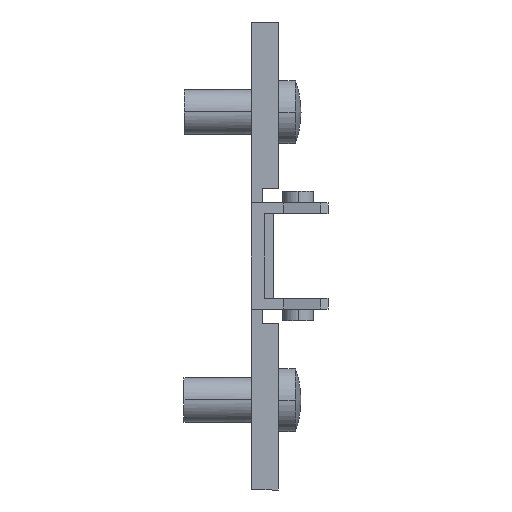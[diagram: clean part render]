
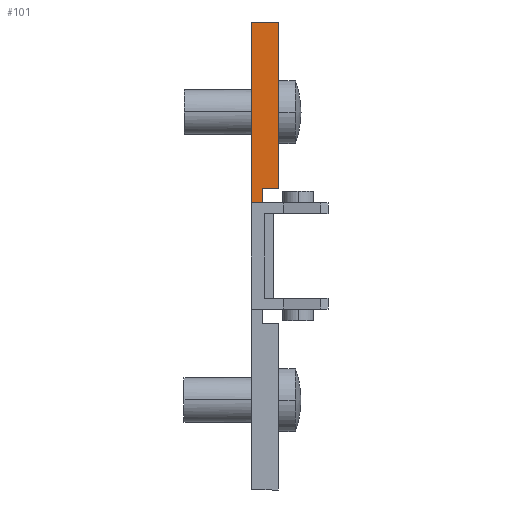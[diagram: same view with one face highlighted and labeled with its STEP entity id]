
A CAD part, front view. The second image highlights one B-rep face of the part: STEP entity #101.
In plain terms, the highlighted planar face has unit normal (0, -1, 0).
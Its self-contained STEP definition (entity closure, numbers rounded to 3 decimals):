
#101 = ADVANCED_FACE ( 'NONE', ( #923 ), #193, .F. ) ;
#193 = PLANE ( 'NONE',  #390 ) ;
#215 = CARTESIAN_POINT ( 'NONE',  ( 0., -9., 5. ) ) ;
#324 = LINE ( 'NONE', #2381, #327 ) ;
#327 = VECTOR ( 'NONE', #2463, 1000. ) ;
#390 = AXIS2_PLACEMENT_3D ( 'NONE', #215, #2632, #2645 ) ;
#557 = EDGE_CURVE ( 'NONE', #686, #2200, #324, .T. ) ;
#685 = VERTEX_POINT ( 'NONE', #2539 ) ;
#686 = VERTEX_POINT ( 'NONE', #2538 ) ;
#775 = LINE ( 'NONE', #1654, #781 ) ;
#781 = VECTOR ( 'NONE', #1642, 1000. ) ;
#923 = FACE_OUTER_BOUND ( 'NONE', #3263, .T. ) ;
#961 = ORIENTED_EDGE ( 'NONE', *, *, #1224, .F. ) ;
#962 = ORIENTED_EDGE ( 'NONE', *, *, #557, .F. ) ;
#963 = ORIENTED_EDGE ( 'NONE', *, *, #1341, .F. ) ;
#964 = ORIENTED_EDGE ( 'NONE', *, *, #1149, .F. ) ;
#965 = ORIENTED_EDGE ( 'NONE', *, *, #1180, .F. ) ;
#966 = ORIENTED_EDGE ( 'NONE', *, *, #1303, .F. ) ;
#1149 = EDGE_CURVE ( 'NONE', #2163, #685, #3365, .T. ) ;
#1180 = EDGE_CURVE ( 'NONE', #2130, #2163, #1420, .T. ) ;
#1224 = EDGE_CURVE ( 'NONE', #2200, #2197, #775, .T. ) ;
#1303 = EDGE_CURVE ( 'NONE', #2197, #2130, #2227, .T. ) ;
#1341 = EDGE_CURVE ( 'NONE', #685, #686, #2268, .T. ) ;
#1416 = VECTOR ( 'NONE', #1518, 1000. ) ;
#1420 = LINE ( 'NONE', #1526, #1416 ) ;
#1518 = DIRECTION ( 'NONE',  ( 0., 0., -1. ) ) ;
#1526 = CARTESIAN_POINT ( 'NONE',  ( 3., -9., 26. ) ) ;
#1642 = DIRECTION ( 'NONE',  ( 0., 0., 1. ) ) ;
#1654 = CARTESIAN_POINT ( 'NONE',  ( 0., -9., 5. ) ) ;
#1770 = CARTESIAN_POINT ( 'NONE',  ( 0., -9., 26. ) ) ;
#1771 = DIRECTION ( 'NONE',  ( 1., 0., 0. ) ) ;
#1875 = DIRECTION ( 'NONE',  ( 0., 0., -1. ) ) ;
#1884 = CARTESIAN_POINT ( 'NONE',  ( 1.2, -9., 7.5 ) ) ;
#2025 = CARTESIAN_POINT ( 'NONE',  ( 3., -9., 7.5 ) ) ;
#2045 = CARTESIAN_POINT ( 'NONE',  ( 3., -9., 26. ) ) ;
#2097 = CARTESIAN_POINT ( 'NONE',  ( 0., -9., 5.9 ) ) ;
#2098 = CARTESIAN_POINT ( 'NONE',  ( 0., -9., 26. ) ) ;
#2130 = VERTEX_POINT ( 'NONE', #2045 ) ;
#2163 = VERTEX_POINT ( 'NONE', #2025 ) ;
#2197 = VERTEX_POINT ( 'NONE', #2098 ) ;
#2200 = VERTEX_POINT ( 'NONE', #2097 ) ;
#2227 = LINE ( 'NONE', #1770, #2229 ) ;
#2229 = VECTOR ( 'NONE', #1771, 1000. ) ;
#2247 = VECTOR ( 'NONE', #1875, 1000. ) ;
#2268 = LINE ( 'NONE', #1884, #2247 ) ;
#2381 = CARTESIAN_POINT ( 'NONE',  ( 0., -9., 5.9 ) ) ;
#2463 = DIRECTION ( 'NONE',  ( -1., 0., 0. ) ) ;
#2538 = CARTESIAN_POINT ( 'NONE',  ( 1.2, -9., 5.9 ) ) ;
#2539 = CARTESIAN_POINT ( 'NONE',  ( 1.2, -9., 7.5 ) ) ;
#2632 = DIRECTION ( 'NONE',  ( 0., 1., 0. ) ) ;
#2645 = DIRECTION ( 'NONE',  ( 0., 0., 1. ) ) ;
#2696 = DIRECTION ( 'NONE',  ( -1., 0., 0. ) ) ;
#2948 = CARTESIAN_POINT ( 'NONE',  ( 3., -9., 7.5 ) ) ;
#3263 = EDGE_LOOP ( 'NONE', ( #961, #962, #963, #964, #965, #966 ) ) ;
#3364 = VECTOR ( 'NONE', #2696, 1000. ) ;
#3365 = LINE ( 'NONE', #2948, #3364 ) ;
